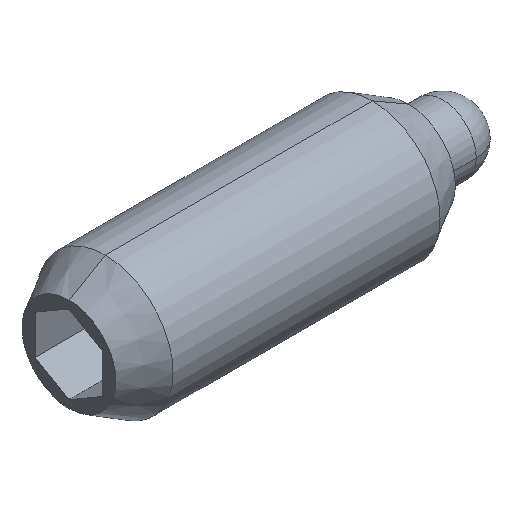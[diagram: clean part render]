
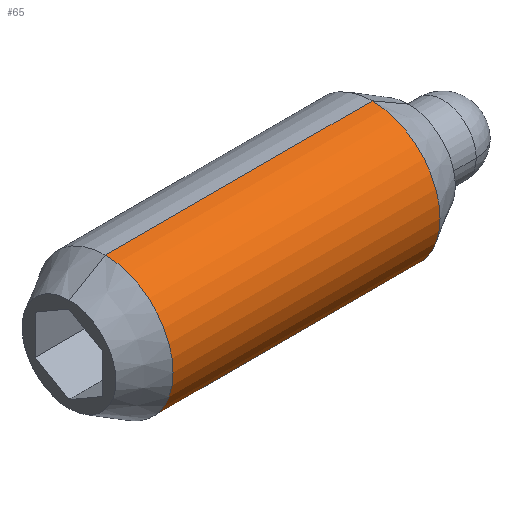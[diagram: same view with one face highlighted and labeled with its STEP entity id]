
A CAD part, isometric view. The second image highlights one B-rep face of the part: STEP entity #65.
In plain terms, the highlighted cylindrical face has radius 6.35 mm (diameter 12.7 mm), a partial arc.
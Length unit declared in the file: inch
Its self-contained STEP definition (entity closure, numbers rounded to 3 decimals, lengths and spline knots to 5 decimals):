
#11 = ORIENTED_EDGE ( 'NONE', *, *, #345, .T. ) ;
#55 = ORIENTED_EDGE ( 'NONE', *, *, #63, .T. ) ;
#56 = EDGE_LOOP ( 'NONE', ( #59, #55, #11, #102 ) ) ;
#59 = ORIENTED_EDGE ( 'NONE', *, *, #373, .F. ) ;
#63 = EDGE_CURVE ( 'NONE', #305, #308, #525, .T. ) ;
#65 = ADVANCED_FACE ( 'NONE', ( #520 ), #519, .T. ) ;
#102 = ORIENTED_EDGE ( 'NONE', *, *, #109, .T. ) ;
#109 = EDGE_CURVE ( 'NONE', #363, #366, #583, .T. ) ;
#305 = VERTEX_POINT ( 'NONE', #875 ) ;
#308 = VERTEX_POINT ( 'NONE', #923 ) ;
#345 = EDGE_CURVE ( 'NONE', #308, #363, #985, .T. ) ;
#363 = VERTEX_POINT ( 'NONE', #1008 ) ;
#366 = VERTEX_POINT ( 'NONE', #1002 ) ;
#373 = EDGE_CURVE ( 'NONE', #305, #366, #1052, .T. ) ;
#514 = DIRECTION ( 'NONE',  ( 0., 0., 1. ) ) ;
#515 = DIRECTION ( 'NONE',  ( -1., 0., 0. ) ) ;
#516 = AXIS2_PLACEMENT_3D ( 'NONE', #518, #515, #514 ) ;
#518 = CARTESIAN_POINT ( 'NONE',  ( 1.25, 0., 0. ) ) ;
#519 = CYLINDRICAL_SURFACE ( 'NONE', #516, 0.25 ) ;
#520 = FACE_OUTER_BOUND ( 'NONE', #56, .T. ) ;
#521 = DIRECTION ( 'NONE',  ( 0., 0., -1. ) ) ;
#522 = DIRECTION ( 'NONE',  ( -1., 0., 0. ) ) ;
#523 = CARTESIAN_POINT ( 'NONE',  ( 1.11663, 0., 0. ) ) ;
#524 = AXIS2_PLACEMENT_3D ( 'NONE', #523, #522, #521 ) ;
#525 = CIRCLE ( 'NONE', #524, 0.25 ) ;
#576 = DIRECTION ( 'NONE',  ( 0., 0., -1. ) ) ;
#577 = DIRECTION ( 'NONE',  ( 1., 0., 0. ) ) ;
#578 = CARTESIAN_POINT ( 'NONE',  ( 0.13337, 0., 0. ) ) ;
#579 = AXIS2_PLACEMENT_3D ( 'NONE', #578, #577, #576 ) ;
#583 = CIRCLE ( 'NONE', #579, 0.25 ) ;
#875 = CARTESIAN_POINT ( 'NONE',  ( 1.11663, 0., -0.25 ) ) ;
#923 = CARTESIAN_POINT ( 'NONE',  ( 1.11663, 0., 0.25 ) ) ;
#982 = DIRECTION ( 'NONE',  ( -1., 0., 0. ) ) ;
#983 = VECTOR ( 'NONE', #982, 39.37008 ) ;
#984 = CARTESIAN_POINT ( 'NONE',  ( 1.25, 0., 0.25 ) ) ;
#985 = LINE ( 'NONE', #984, #983 ) ;
#1002 = CARTESIAN_POINT ( 'NONE',  ( 0.13337, 0., -0.25 ) ) ;
#1008 = CARTESIAN_POINT ( 'NONE',  ( 0.13337, 0., 0.25 ) ) ;
#1049 = DIRECTION ( 'NONE',  ( -1., 0., 0. ) ) ;
#1050 = VECTOR ( 'NONE', #1049, 39.37008 ) ;
#1051 = CARTESIAN_POINT ( 'NONE',  ( 1.25, 0., -0.25 ) ) ;
#1052 = LINE ( 'NONE', #1051, #1050 ) ;
